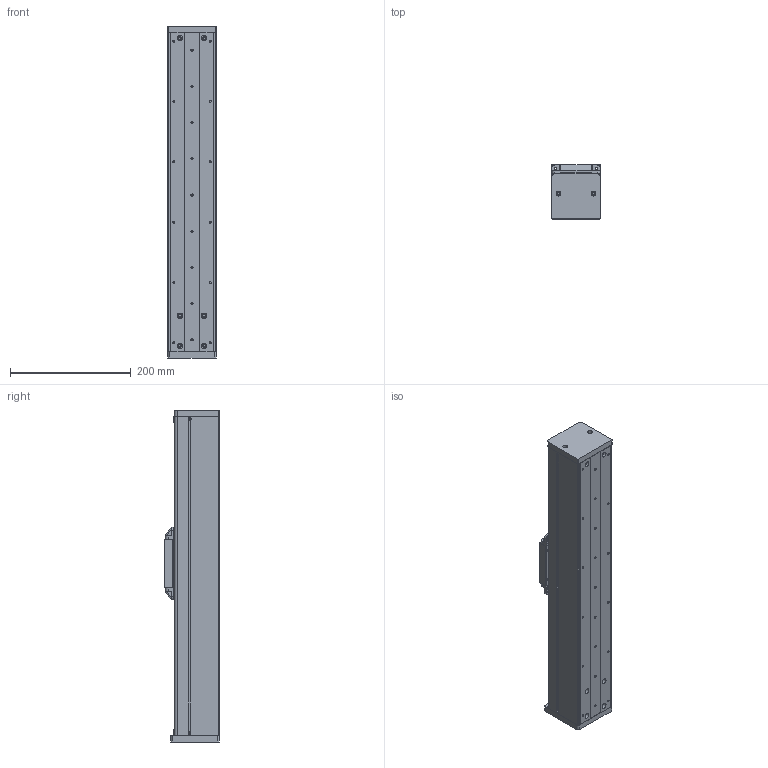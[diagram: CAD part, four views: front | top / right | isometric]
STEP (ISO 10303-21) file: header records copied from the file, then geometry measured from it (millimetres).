
FILE_DESCRIPTION (( 'STEP AP214' ), '1' );
FILE_NAME ('CF80-16-C-300-FW60.STEP', '2016-02-19T02:23:56', ( '' ), ( '' ), 'SwSTEP 2.0', 'SolidWorks 2015', '' );
FILE_SCHEMA (( 'AUTOMOTIVE_DESIGN' ));
Length unit declared in the file: millimetre
Products named in the file (13): 賑雄輸裔啣; CFN80墙板; CF80-16-C-300-FW60; CFN80嘐隅釱; CF80耜啣; 詩湍揤啣; CF80詩湍; CFN80菁釱; EGR15絳寢; CF80盓傅釱; CF80-60萇儂假蚾啣; EGW15CA賑輸; 賑雄輸
Assembly tree (14 placements, depth 2):
  CF80-16-C-300-FW60
    CFN80菁釱
    CFN80墙板  x2
    EGW15CA賑輸
    EGR15絳寢
    CF80盓傅釱
    賑雄輸
    CFN80嘐隅釱
    賑雄輸裔啣
    CF80-60萇儂假蚾啣
    CF80耜啣
    CF80詩湍
    詩湍揤啣  x2
Bounding box: 80.02 x 91 x 550 mm (x, y, z)
Volume: 1319968.6 mm3; surface area: 584523.5 mm2
Topology: 14 solids, 14 shells, 719 faces, 1988 edges, 1316 vertices
Faces by surface type: cylinder 359, plane 352, cone 8
Entity records: 23887 total; most frequent: CARTESIAN_POINT 5591, DIRECTION 3669, ORIENTED_EDGE 3638, EDGE_CURVE 1819, AXIS2_PLACEMENT_3D 1298, VERTEX_POINT 1206, VECTOR 1073, LINE 1073
